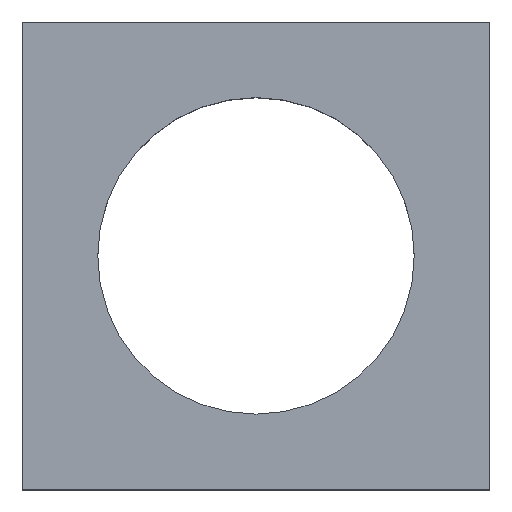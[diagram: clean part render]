
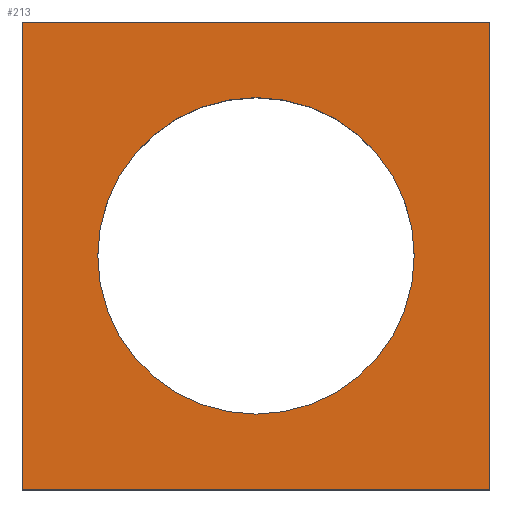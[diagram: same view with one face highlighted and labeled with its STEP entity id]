
A CAD part, top view. The second image highlights one B-rep face of the part: STEP entity #213.
In plain terms, the highlighted planar face has unit normal (0, 0, 1).
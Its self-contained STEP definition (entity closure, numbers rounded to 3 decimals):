
#24 = VERTEX_POINT('',#25);
#25 = CARTESIAN_POINT('',(-30.,-30.,-17.));
#32 = PLANE('',#33);
#33 = AXIS2_PLACEMENT_3D('',#34,#35,#36);
#34 = CARTESIAN_POINT('',(-30.,-30.,-35.));
#35 = DIRECTION('',(1.,0.,-0.));
#36 = DIRECTION('',(0.,0.,1.));
#44 = PLANE('',#45);
#45 = AXIS2_PLACEMENT_3D('',#46,#47,#48);
#46 = CARTESIAN_POINT('',(-30.,-30.,-35.));
#47 = DIRECTION('',(-0.,1.,0.));
#48 = DIRECTION('',(0.,0.,1.));
#85 = VERTEX_POINT('',#86);
#86 = CARTESIAN_POINT('',(-30.,30.,-17.));
#100 = PLANE('',#101);
#101 = AXIS2_PLACEMENT_3D('',#102,#103,#104);
#102 = CARTESIAN_POINT('',(-30.,30.,-35.));
#103 = DIRECTION('',(-0.,1.,0.));
#104 = DIRECTION('',(0.,0.,1.));
#112 = EDGE_CURVE('',#24,#85,#113,.T.);
#113 = SURFACE_CURVE('',#114,(#118,#125),.PCURVE_S1.);
#114 = LINE('',#115,#116);
#115 = CARTESIAN_POINT('',(-30.,-30.,-17.));
#116 = VECTOR('',#117,1.);
#117 = DIRECTION('',(-0.,1.,0.));
#118 = PCURVE('',#32,#119);
#119 = DEFINITIONAL_REPRESENTATION('',(#120),#124);
#120 = LINE('',#121,#122);
#121 = CARTESIAN_POINT('',(18.,0.));
#122 = VECTOR('',#123,1.);
#123 = DIRECTION('',(0.,-1.));
#124 = ( GEOMETRIC_REPRESENTATION_CONTEXT(2) 
PARAMETRIC_REPRESENTATION_CONTEXT() REPRESENTATION_CONTEXT('2D SPACE',''
  ) );
#125 = PCURVE('',#126,#131);
#126 = PLANE('',#127);
#127 = AXIS2_PLACEMENT_3D('',#128,#129,#130);
#128 = CARTESIAN_POINT('',(-30.,-30.,-17.));
#129 = DIRECTION('',(0.,0.,1.));
#130 = DIRECTION('',(1.,0.,-0.));
#131 = DEFINITIONAL_REPRESENTATION('',(#132),#136);
#132 = LINE('',#133,#134);
#133 = CARTESIAN_POINT('',(0.,0.));
#134 = VECTOR('',#135,1.);
#135 = DIRECTION('',(0.,1.));
#136 = ( GEOMETRIC_REPRESENTATION_CONTEXT(2) 
PARAMETRIC_REPRESENTATION_CONTEXT() REPRESENTATION_CONTEXT('2D SPACE',''
  ) );
#165 = EDGE_CURVE('',#24,#166,#168,.T.);
#166 = VERTEX_POINT('',#167);
#167 = CARTESIAN_POINT('',(30.,-30.,-17.));
#168 = SURFACE_CURVE('',#169,(#173,#180),.PCURVE_S1.);
#169 = LINE('',#170,#171);
#170 = CARTESIAN_POINT('',(-30.,-30.,-17.));
#171 = VECTOR('',#172,1.);
#172 = DIRECTION('',(1.,0.,-0.));
#173 = PCURVE('',#44,#174);
#174 = DEFINITIONAL_REPRESENTATION('',(#175),#179);
#175 = LINE('',#176,#177);
#176 = CARTESIAN_POINT('',(18.,0.));
#177 = VECTOR('',#178,1.);
#178 = DIRECTION('',(0.,1.));
#179 = ( GEOMETRIC_REPRESENTATION_CONTEXT(2) 
PARAMETRIC_REPRESENTATION_CONTEXT() REPRESENTATION_CONTEXT('2D SPACE',''
  ) );
#180 = PCURVE('',#126,#181);
#181 = DEFINITIONAL_REPRESENTATION('',(#182),#186);
#182 = LINE('',#183,#184);
#183 = CARTESIAN_POINT('',(0.,0.));
#184 = VECTOR('',#185,1.);
#185 = DIRECTION('',(1.,0.));
#186 = ( GEOMETRIC_REPRESENTATION_CONTEXT(2) 
PARAMETRIC_REPRESENTATION_CONTEXT() REPRESENTATION_CONTEXT('2D SPACE',''
  ) );
#202 = PLANE('',#203);
#203 = AXIS2_PLACEMENT_3D('',#204,#205,#206);
#204 = CARTESIAN_POINT('',(30.,-30.,-35.));
#205 = DIRECTION('',(1.,0.,-0.));
#206 = DIRECTION('',(0.,0.,1.));
#213 = ADVANCED_FACE('',(#214,#262),#126,.T.);
#214 = FACE_BOUND('',#215,.T.);
#215 = EDGE_LOOP('',(#216,#217,#218,#241));
#216 = ORIENTED_EDGE('',*,*,#112,.F.);
#217 = ORIENTED_EDGE('',*,*,#165,.T.);
#218 = ORIENTED_EDGE('',*,*,#219,.T.);
#219 = EDGE_CURVE('',#166,#220,#222,.T.);
#220 = VERTEX_POINT('',#221);
#221 = CARTESIAN_POINT('',(30.,30.,-17.));
#222 = SURFACE_CURVE('',#223,(#227,#234),.PCURVE_S1.);
#223 = LINE('',#224,#225);
#224 = CARTESIAN_POINT('',(30.,-30.,-17.));
#225 = VECTOR('',#226,1.);
#226 = DIRECTION('',(-0.,1.,0.));
#227 = PCURVE('',#126,#228);
#228 = DEFINITIONAL_REPRESENTATION('',(#229),#233);
#229 = LINE('',#230,#231);
#230 = CARTESIAN_POINT('',(60.,0.));
#231 = VECTOR('',#232,1.);
#232 = DIRECTION('',(0.,1.));
#233 = ( GEOMETRIC_REPRESENTATION_CONTEXT(2) 
PARAMETRIC_REPRESENTATION_CONTEXT() REPRESENTATION_CONTEXT('2D SPACE',''
  ) );
#234 = PCURVE('',#202,#235);
#235 = DEFINITIONAL_REPRESENTATION('',(#236),#240);
#236 = LINE('',#237,#238);
#237 = CARTESIAN_POINT('',(18.,0.));
#238 = VECTOR('',#239,1.);
#239 = DIRECTION('',(0.,-1.));
#240 = ( GEOMETRIC_REPRESENTATION_CONTEXT(2) 
PARAMETRIC_REPRESENTATION_CONTEXT() REPRESENTATION_CONTEXT('2D SPACE',''
  ) );
#241 = ORIENTED_EDGE('',*,*,#242,.F.);
#242 = EDGE_CURVE('',#85,#220,#243,.T.);
#243 = SURFACE_CURVE('',#244,(#248,#255),.PCURVE_S1.);
#244 = LINE('',#245,#246);
#245 = CARTESIAN_POINT('',(-30.,30.,-17.));
#246 = VECTOR('',#247,1.);
#247 = DIRECTION('',(1.,0.,-0.));
#248 = PCURVE('',#126,#249);
#249 = DEFINITIONAL_REPRESENTATION('',(#250),#254);
#250 = LINE('',#251,#252);
#251 = CARTESIAN_POINT('',(0.,60.));
#252 = VECTOR('',#253,1.);
#253 = DIRECTION('',(1.,0.));
#254 = ( GEOMETRIC_REPRESENTATION_CONTEXT(2) 
PARAMETRIC_REPRESENTATION_CONTEXT() REPRESENTATION_CONTEXT('2D SPACE',''
  ) );
#255 = PCURVE('',#100,#256);
#256 = DEFINITIONAL_REPRESENTATION('',(#257),#261);
#257 = LINE('',#258,#259);
#258 = CARTESIAN_POINT('',(18.,0.));
#259 = VECTOR('',#260,1.);
#260 = DIRECTION('',(0.,1.));
#261 = ( GEOMETRIC_REPRESENTATION_CONTEXT(2) 
PARAMETRIC_REPRESENTATION_CONTEXT() REPRESENTATION_CONTEXT('2D SPACE',''
  ) );
#262 = FACE_BOUND('',#263,.T.);
#263 = EDGE_LOOP('',(#264));
#264 = ORIENTED_EDGE('',*,*,#265,.F.);
#265 = EDGE_CURVE('',#266,#266,#268,.T.);
#266 = VERTEX_POINT('',#267);
#267 = CARTESIAN_POINT('',(20.3,0.,-17.));
#268 = SURFACE_CURVE('',#269,(#274,#281),.PCURVE_S1.);
#269 = CIRCLE('',#270,20.3);
#270 = AXIS2_PLACEMENT_3D('',#271,#272,#273);
#271 = CARTESIAN_POINT('',(0.,0.,-17.));
#272 = DIRECTION('',(0.,0.,1.));
#273 = DIRECTION('',(1.,0.,-0.));
#274 = PCURVE('',#126,#275);
#275 = DEFINITIONAL_REPRESENTATION('',(#276),#280);
#276 = CIRCLE('',#277,20.3);
#277 = AXIS2_PLACEMENT_2D('',#278,#279);
#278 = CARTESIAN_POINT('',(30.,30.));
#279 = DIRECTION('',(1.,0.));
#280 = ( GEOMETRIC_REPRESENTATION_CONTEXT(2) 
PARAMETRIC_REPRESENTATION_CONTEXT() REPRESENTATION_CONTEXT('2D SPACE',''
  ) );
#281 = PCURVE('',#282,#287);
#282 = CYLINDRICAL_SURFACE('',#283,20.3);
#283 = AXIS2_PLACEMENT_3D('',#284,#285,#286);
#284 = CARTESIAN_POINT('',(0.,0.,-36.));
#285 = DIRECTION('',(0.,0.,1.));
#286 = DIRECTION('',(1.,0.,-0.));
#287 = DEFINITIONAL_REPRESENTATION('',(#288),#292);
#288 = LINE('',#289,#290);
#289 = CARTESIAN_POINT('',(0.,19.));
#290 = VECTOR('',#291,1.);
#291 = DIRECTION('',(1.,0.));
#292 = ( GEOMETRIC_REPRESENTATION_CONTEXT(2) 
PARAMETRIC_REPRESENTATION_CONTEXT() REPRESENTATION_CONTEXT('2D SPACE',''
  ) );
